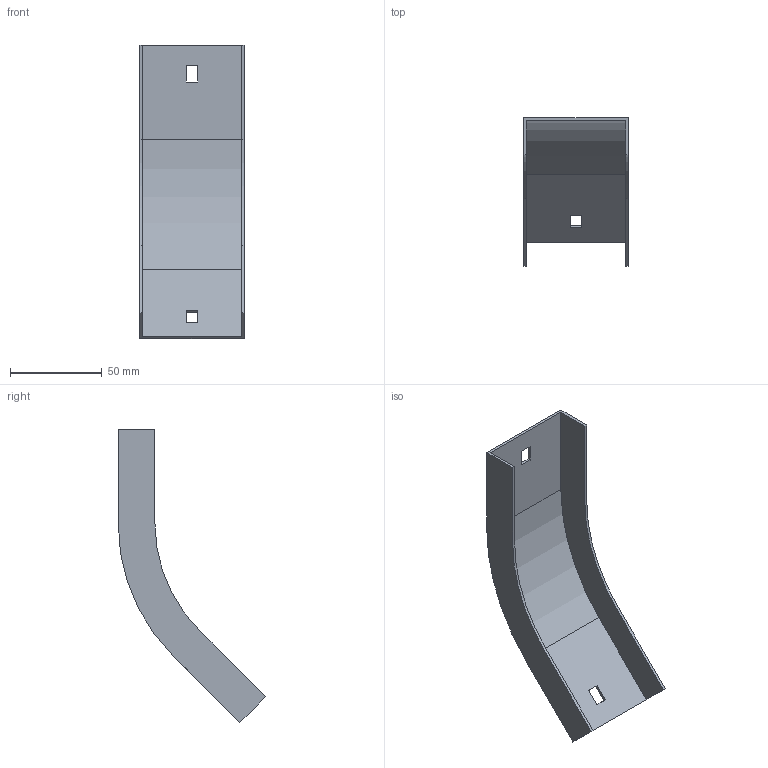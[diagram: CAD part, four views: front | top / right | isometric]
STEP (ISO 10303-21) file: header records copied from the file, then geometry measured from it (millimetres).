
FILE_DESCRIPTION (( 'STEP AP214' ), '1' );
FILE_NAME ('34G1B050.step', '2025-02-21T12:42:38', ( '' ), ( '' ), 'SwSTEP 2.0', 'SolidWorks 2023', '' );
FILE_SCHEMA (( 'AUTOMOTIVE_DESIGN' ));
Length unit declared in the file: millimetre
Products named in the file (1): 34G1B050
Bounding box: 57 x 80.32 x 159.76 mm (x, y, z)
Volume: 25080.1 mm3; surface area: 34318.1 mm2
Topology: 1 solids, 1 shells, 26 faces, 72 edges, 48 vertices
Faces by surface type: plane 22, cylinder 4
Entity records: 855 total; most frequent: CARTESIAN_POINT 147, ORIENTED_EDGE 144, DIRECTION 134, EDGE_CURVE 72, LINE 64, VECTOR 64, VERTEX_POINT 48, AXIS2_PLACEMENT_3D 35
